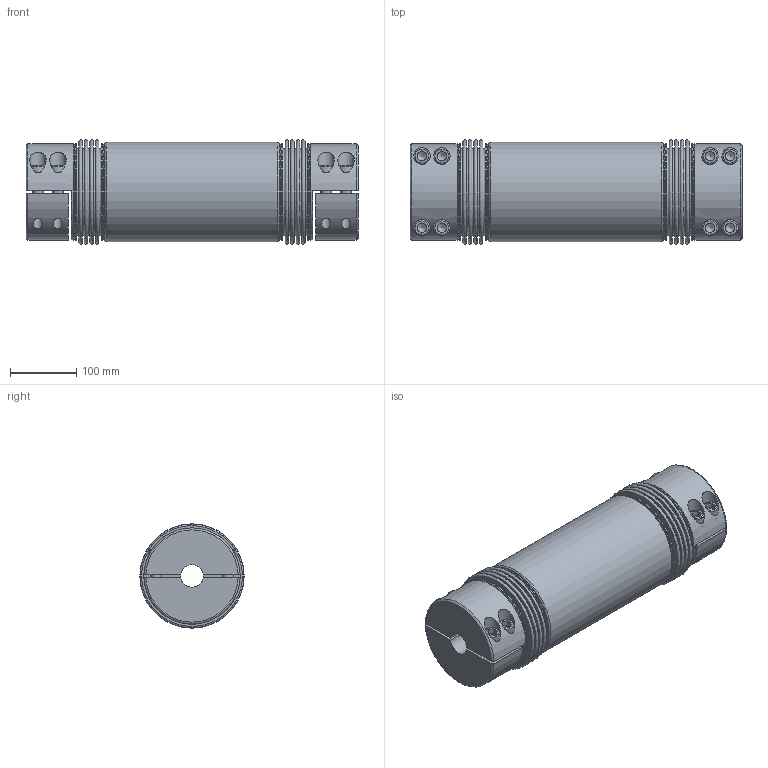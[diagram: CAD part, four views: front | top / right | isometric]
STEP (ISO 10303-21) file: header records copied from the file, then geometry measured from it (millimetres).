
FILE_DESCRIPTION( ( 'Unknown' ), '1' );
FILE_NAME( 'F:/PR/14_Step-Dateien/WD-HD/WD-HD 1600 - L=0,5m.stp', 'Unknown', ( 'Unknown' ), ( 'Unknown' ), 'PSStep 10.1', 'Unknown', ' ' );
FILE_SCHEMA( ( 'AUTOMOTIVE_DESIGN { 1 0 10303 214 1 1 1 1 }' ) );
Length unit declared in the file: millimetre
Products named in the file (1): WD-HD 1600
Bounding box: 500 x 156.99 x 156.99 mm (x, y, z)
Volume: 3740972.2 mm3; surface area: 816848.9 mm2
Topology: 1 solids, 3 shells, 314 faces, 674 edges, 440 vertices
Faces by surface type: plane 164, cylinder 66, torus 60, cone 24
Full cylindrical faces by diameter (mm): 14 x8, 16 x8, 17 x8, 24 x8, 25 x8, 34 x2, 95 x2, 113 x2, 124 x2, 140 x1, 143.2 x4, 144.942 x2, 145 x6, 150 x1
Entity records: 11440 total; most frequent: CARTESIAN_POINT 2831, DIRECTION 1318, ORIENTED_EDGE 936, AXIS2_PLACEMENT_3D 559, EDGE_LOOP 548, EDGE_CURVE 468, FACE_OUTER_BOUND 432, VERTEX_POINT 384
